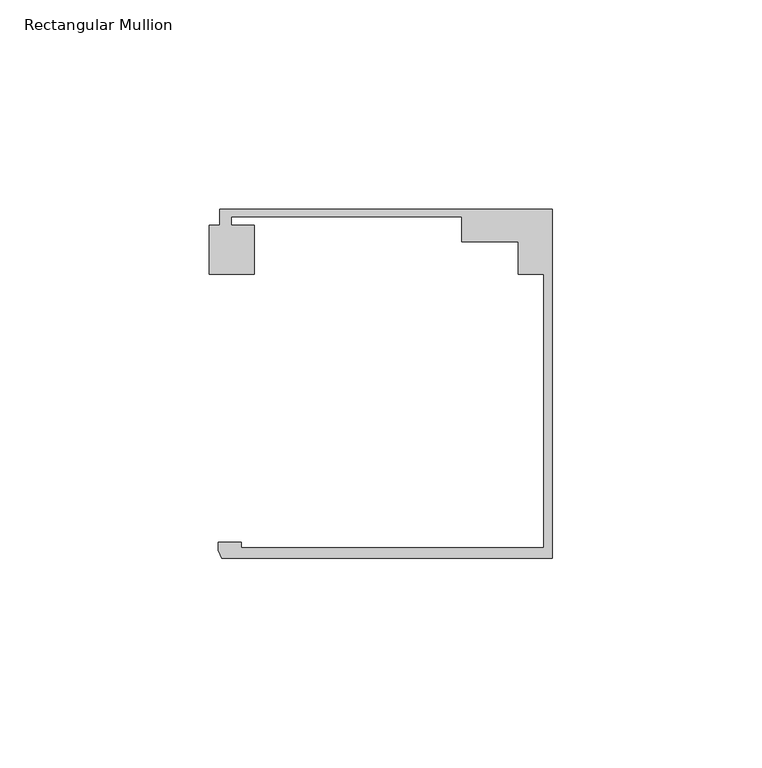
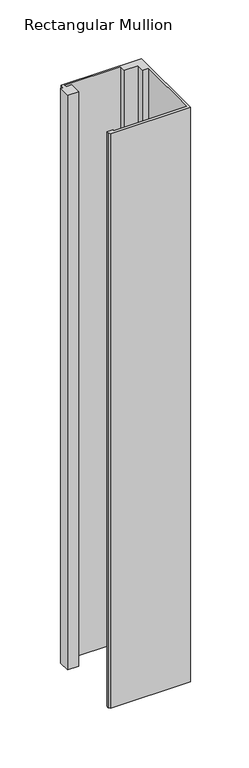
"""IFC4 building model written with IfcOpenShell, lengths in millimetres: member geometry, Rectangular Mullion : Danpal_Airpt_End-Mullion_B2."""

from ifc_helpers import new_model, si_unit, frame, origin, place, context, project, spatial, polyline, outline, extrude, source, transform, mapped, element, save


def rectangular_mullion_48fdb4e5(model_context):
    return source(origin(), model_context, "Body", "SweptSolid", [
        extrude(outline(polyline([(-2.0000001, -74.9940824), (-2.0000001, -9.7188964), (-8.1, -9.7188964), (-8.1, -1.8818054), (-21.5478166, -1.8818054), (-21.5478166, 4.0051512), (-76.6478166, 4.0051512), (-76.6478166, 2.0051513), (-71.1433532, 2.0051513), (-71.1433532, -9.6875514), (-81.8592324, -9.6875514), (-81.8592324, 2.0051513), (-79.3474874, 2.0051513), (-79.3474874, 5.8051514), (0.0, 5.8051514), (0.0, -77.4940825), (-78.8515009, -77.4940825), (-79.7784606, -75.5472671), (-79.7784606, -73.6940824), (-74.2474668, -73.6940824), (-74.2474668, -74.9940824), (-2.0000001, -74.9940824)])), frame((0.0, 0.0, -598.0823536), z_axis=(0.0, 0.0, 1.0), x_axis=(1.0, 0.0, 0.0)), (0.0, 0.0, 1.0), 598.0823536),
    ])


if __name__ == "__main__":
    model = new_model("IFC4")
    model_context = context("Model", 3, world=origin())
    ifc_project = project(units=[si_unit("LENGTHUNIT", "METRE", prefix="MILLI")], contexts=[model_context])
    site = spatial("IfcSite", under=ifc_project)
    building = spatial("IfcBuilding", under=site)
    placement = place(None, origin())
    rectangular_mullion_shape = rectangular_mullion_48fdb4e5(model_context)
    element("IfcMember", 1, ObjectType="Rectangular Mullion : Danpal_Airpt_End-Mullion_B2", at=placement, inside=building, context=model_context, shape_type="MappedRepresentation", body=[
        mapped(rectangular_mullion_shape, transform((0.0, 0.0, 0.0), x_axis=(1.0, 0.0, 0.0), y_axis=(0.0, 1.0, 0.0), z_axis=(0.0, 0.0, 1.0))),
    ])
    save(model, "model.ifc")
